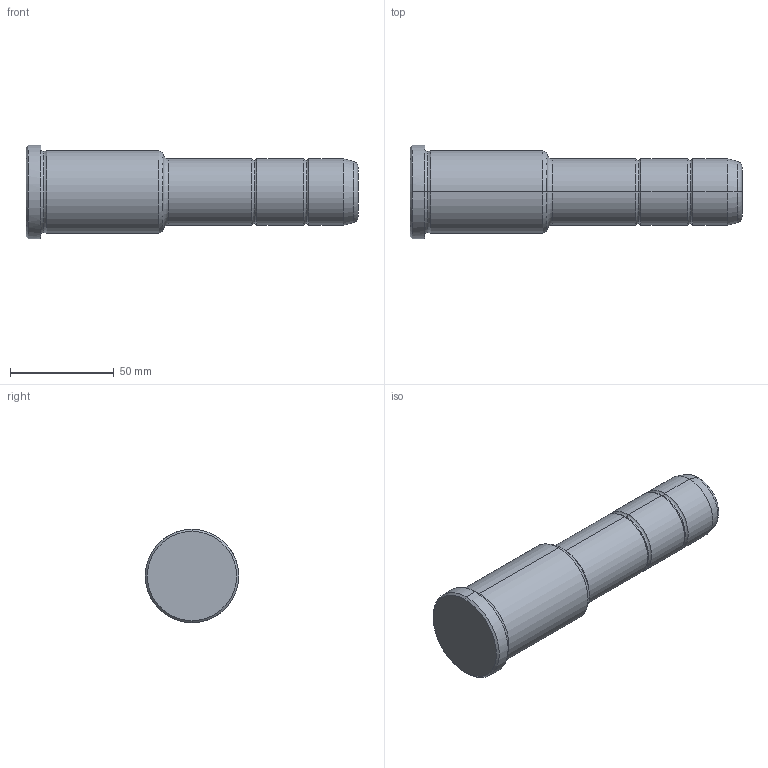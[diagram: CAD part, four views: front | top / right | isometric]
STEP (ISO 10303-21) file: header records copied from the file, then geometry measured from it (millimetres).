
FILE_DESCRIPTION(('CATIA V5 STEP Exchange'),'2;1');
FILE_NAME('C:\Users\Utente\Desktop\IO LAVORO\3D X SITO CF\X SITO\PLASTICA\351\351-32X66X160.stp','2021-09-07T12:29:45+00:00',('none'),('none'),'CATIA Version 5 Release 20 GA (IN-10)','CATIA V5 STEP AP203','none');
FILE_SCHEMA(('CONFIG_CONTROL_DESIGN'));
Length unit declared in the file: millimetre
Products named in the file (1): 351-32X66X160
Bounding box: 160 x 45 x 45 mm (x, y, z)
Volume: 159668.6 mm3; surface area: 20605.2 mm2
Topology: 1 solids, 1 shells, 36 faces, 102 edges, 70 vertices
Faces by surface type: torus 16, cylinder 10, cone 6, plane 4
Entity records: 1292 total; most frequent: CARTESIAN_POINT 321, ORIENTED_EDGE 204, DIRECTION 166, AXIS2_PLACEMENT_3D 115, EDGE_CURVE 102, CIRCLE 78, VERTEX_POINT 70, EDGE_LOOP 38
